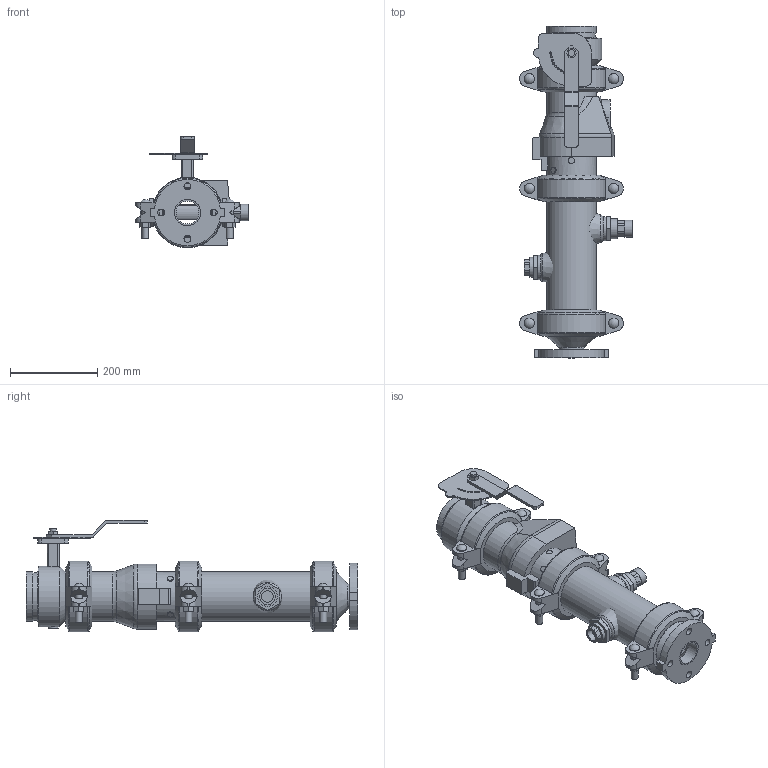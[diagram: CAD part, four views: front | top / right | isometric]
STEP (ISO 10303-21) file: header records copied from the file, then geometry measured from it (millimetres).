
FILE_DESCRIPTION(/* description */ ('VIC DVI PUMP DROP VERT S/380 (OGSxFLG) (S/924-0.75)','CAx-IF Rec.Pracs.---Representation and Presentation of Product Manufacturing Information (PMI)---4.0---2014-10-13'),/* implementation_level */ '2;1');
FILE_NAME(/* name */ 'C:\Users\Public\Documents\Victaulic.Temp\A765\Victaulic_IPS_Vertical DVI_CL 150_Series 380 (OGSxFLG)_924 (0.75)_04.0x02.0 (100x50).stp',/* time_stamp */ '2022-07-25T11:10:26+02:00',/* author */ ('Vjadhav'),/* organization */ ('Victaulic'),/* preprocessor_version */ 'ST-DEVELOPER v18',/* originating_system */ 'Autodesk Inventor 2020',/* authorisation */ '');
FILE_SCHEMA (('AP242_MANAGED_MODEL_BASED_3D_ENGINEERING_MIM_LF { 1 0 10303 442 1 1 4 }'));
Length unit declared in the file: inch
Products named in the file (9): 380_924 (0.75)-04.0x02.0; 741-02.0; 050-04.0x02.0; Pipe-04.0; 177N-04.0; 761-04.0; 779-04.0; 923-04.0x0.75; 924-04.0x0.75
Assembly tree (10 placements, depth 2):
  380_924 (0.75)-04.0x02.0
    741-02.0
    050-04.0x02.0
    177N-04.0  x3
    Pipe-04.0
    761-04.0
    779-04.0
    923-04.0x0.75
    924-04.0x0.75
Bounding box: 258.01 x 762 x 255.73 mm (x, y, z)
Volume: 5854259.7 mm3; surface area: 1039282 mm2
Topology: 10 solids, 11 shells, 589 faces, 1537 edges, 1025 vertices
Faces by surface type: plane 345, cylinder 198, cone 20, torus 18, sphere 6, bspline 2
Full cylindrical faces by diameter (mm): 4.826 x10, 8.636 x4, 13.716 x2, 14.986 x2, 15.875 x10, 22.86 x1, 23.495 x6, 26.67 x2, 38.608 x1, 45.974 x4, 52.502 x1, 55.118 x1, 55.626 x2, 57.15 x1, 60.325 x3, 101.6 x3, 102.26 x4, 110.084 x7, 114.3 x19, 139.7 x1
Entity records: 13977 total; most frequent: CARTESIAN_POINT 2763, DIRECTION 2310, ORIENTED_EDGE 2102, EDGE_CURVE 1051, AXIS2_PLACEMENT_3D 876, VERTEX_POINT 705, LINE 558, VECTOR 558
